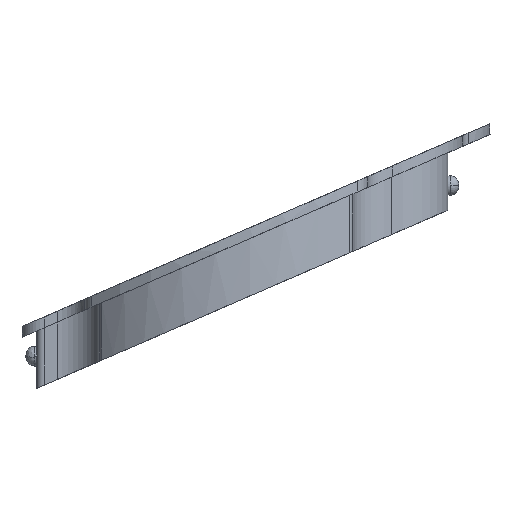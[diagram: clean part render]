
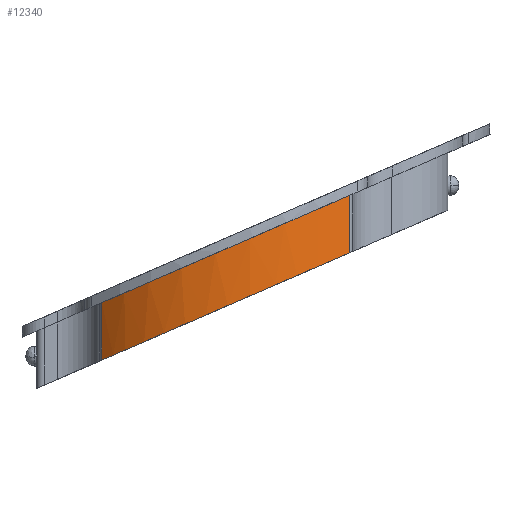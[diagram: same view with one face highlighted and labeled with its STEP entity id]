
A CAD part, left-side view. The second image highlights one B-rep face of the part: STEP entity #12340.
In plain terms, the highlighted free-form (B-spline) face has degree [3, 1] with [8, 2] control points.
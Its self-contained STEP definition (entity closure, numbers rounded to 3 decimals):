
#457 = CARTESIAN_POINT ( 'NONE',  ( -96.407, -24.777, 15.584 ) ) ;
#759 = CARTESIAN_POINT ( 'NONE',  ( -97.055, -22.881, 19.981 ) ) ;
#829 = CARTESIAN_POINT ( 'NONE',  ( -97.152, -22.907, 14.774 ) ) ;
#926 = CARTESIAN_POINT ( 'NONE',  ( -92.985, -4.045, 11.818 ) ) ;
#1133 = LINE ( 'NONE', #22820, #16467 ) ;
#1227 = CARTESIAN_POINT ( 'NONE',  ( -96.788, -10.076, 14.432 ) ) ;
#1334 = EDGE_CURVE ( 'NONE', #18814, #20877, #4240, .T. ) ;
#1797 = VERTEX_POINT ( 'NONE', #21419 ) ;
#1898 = CARTESIAN_POINT ( 'NONE',  ( -97.555, -10.985, 14.826 ) ) ;
#1904 = B_SPLINE_SURFACE_WITH_KNOTS ( 'NONE', 3, 1, ( 
 ( #16702, #22269 ),
 ( #457, #7700 ),
 ( #2365, #22148 ),
 ( #16812, #5924 ),
 ( #19894, #10892 ),
 ( #18130, #1898 ),
 ( #7349, #21796 ),
 ( #5572, #926 ) ),
 .UNSPECIFIED., .F., .F., .F.,
 ( 4, 2, 2, 4 ),
 ( 2, 2 ),
 ( 0., 0.25, 0.5, 1. ),
 ( 0., 1. ),
 .UNSPECIFIED. ) ;
#2365 = CARTESIAN_POINT ( 'NONE',  ( -97.152, -22.907, 14.774 ) ) ;
#2427 = CARTESIAN_POINT ( 'NONE',  ( -96.321, -24.76, 20.795 ) ) ;
#2520 = CARTESIAN_POINT ( 'NONE',  ( -95.336, -26.542, 16.349 ) ) ;
#2629 = CARTESIAN_POINT ( 'NONE',  ( -97.555, -10.985, 9.608 ) ) ;
#2739 = CARTESIAN_POINT ( 'NONE',  ( -92.985, -4.045, 6.6 ) ) ;
#3021 = CARTESIAN_POINT ( 'NONE',  ( -92.985, -4.045, 11.818 ) ) ;
#3092 = CARTESIAN_POINT ( 'NONE',  ( -95.336, -26.542, 16.349 ) ) ;
#4240 = B_SPLINE_CURVE_WITH_KNOTS ( 'NONE', 3,
 ( #3092, #20622, #829, #18966, #11622, #2629, #8070, #2739 ),
 .UNSPECIFIED., .F., .F.,
 ( 4, 2, 2, 4 ),
 ( 0., 0.25, 0.5, 1. ),
 .UNSPECIFIED. ) ;
#4436 = CARTESIAN_POINT ( 'NONE',  ( -97.355, -21.915, 19.562 ) ) ;
#5027 = CARTESIAN_POINT ( 'NONE',  ( -97.671, -12.972, 15.687 ) ) ;
#5267 = CARTESIAN_POINT ( 'NONE',  ( -93.704, -4.811, 12.15 ) ) ;
#5572 = CARTESIAN_POINT ( 'NONE',  ( -92.985, -4.045, 6.6 ) ) ;
#5924 = CARTESIAN_POINT ( 'NONE',  ( -98.036, -18.973, 18.287 ) ) ;
#6907 = EDGE_CURVE ( 'NONE', #18814, #19062, #7855, .T. ) ;
#7349 = CARTESIAN_POINT ( 'NONE',  ( -95.859, -7.107, 7.927 ) ) ;
#7700 = CARTESIAN_POINT ( 'NONE',  ( -96.407, -24.777, 20.802 ) ) ;
#7855 = LINE ( 'NONE', #2520, #19015 ) ;
#7993 = CARTESIAN_POINT ( 'NONE',  ( -97.486, -21.423, 19.349 ) ) ;
#8070 = CARTESIAN_POINT ( 'NONE',  ( -95.859, -7.107, 7.927 ) ) ;
#9269 = EDGE_LOOP ( 'NONE', ( #14115, #13742, #13996, #11526 ) ) ;
#9652 = CARTESIAN_POINT ( 'NONE',  ( -96.886, -23.356, 20.187 ) ) ;
#9970 = DIRECTION ( 'NONE',  ( 0., 0., 1. ) ) ;
#10350 = CARTESIAN_POINT ( 'NONE',  ( -95.476, -7.322, 13.238 ) ) ;
#10892 = CARTESIAN_POINT ( 'NONE',  ( -98.155, -16.963, 17.416 ) ) ;
#11214 = EDGE_CURVE ( 'NONE', #20877, #1797, #1133, .T. ) ;
#11248 = FACE_OUTER_BOUND ( 'NONE', #9269, .T. ) ;
#11526 = ORIENTED_EDGE ( 'NONE', *, *, #6907, .T. ) ;
#11622 = CARTESIAN_POINT ( 'NONE',  ( -98.155, -16.963, 12.198 ) ) ;
#11665 = CARTESIAN_POINT ( 'NONE',  ( -97.956, -18.959, 18.281 ) ) ;
#11734 = CARTESIAN_POINT ( 'NONE',  ( -92.985, -4.045, 6.6 ) ) ;
#12340 = ADVANCED_FACE ( 'NONE', ( #11248 ), #1904, .F. ) ;
#12358 = CARTESIAN_POINT ( 'NONE',  ( -95.968, -8.21, 13.623 ) ) ;
#13211 = CARTESIAN_POINT ( 'NONE',  ( -95.867, -25.666, 21.187 ) ) ;
#13742 = ORIENTED_EDGE ( 'NONE', *, *, #11214, .F. ) ;
#13976 = CARTESIAN_POINT ( 'NONE',  ( -95.336, -26.542, 16.349 ) ) ;
#13996 = ORIENTED_EDGE ( 'NONE', *, *, #1334, .F. ) ;
#14115 = ORIENTED_EDGE ( 'NONE', *, *, #19163, .T. ) ;
#14141 = CARTESIAN_POINT ( 'NONE',  ( -98.075, -16.971, 17.419 ) ) ;
#15213 = CARTESIAN_POINT ( 'NONE',  ( -97.817, -19.948, 18.71 ) ) ;
#15689 = CARTESIAN_POINT ( 'NONE',  ( -96.596, -9.601, 14.226 ) ) ;
#15925 = CARTESIAN_POINT ( 'NONE',  ( -98.056, -15.971, 16.986 ) ) ;
#16467 = VECTOR ( 'NONE', #19141, 1000. ) ;
#16702 = CARTESIAN_POINT ( 'NONE',  ( -95.336, -26.542, 16.349 ) ) ;
#16812 = CARTESIAN_POINT ( 'NONE',  ( -98.036, -18.973, 13.069 ) ) ;
#18130 = CARTESIAN_POINT ( 'NONE',  ( -97.555, -10.985, 9.608 ) ) ;
#18814 = VERTEX_POINT ( 'NONE', #13976 ) ;
#18966 = CARTESIAN_POINT ( 'NONE',  ( -98.036, -18.973, 13.069 ) ) ;
#19005 = CARTESIAN_POINT ( 'NONE',  ( -95.336, -26.542, 21.567 ) ) ;
#19015 = VECTOR ( 'NONE', #9970, 1000. ) ;
#19062 = VERTEX_POINT ( 'NONE', #19005 ) ;
#19141 = DIRECTION ( 'NONE',  ( 0., 0., 1. ) ) ;
#19163 = EDGE_CURVE ( 'NONE', #19062, #1797, #22109, .T. ) ;
#19354 = CARTESIAN_POINT ( 'NONE',  ( -97.28, -11.513, 15.055 ) ) ;
#19894 = CARTESIAN_POINT ( 'NONE',  ( -98.155, -16.963, 12.198 ) ) ;
#20622 = CARTESIAN_POINT ( 'NONE',  ( -96.407, -24.777, 15.584 ) ) ;
#20877 = VERTEX_POINT ( 'NONE', #11734 ) ;
#21143 = CARTESIAN_POINT ( 'NONE',  ( -97.129, -11.031, 14.846 ) ) ;
#21419 = CARTESIAN_POINT ( 'NONE',  ( -92.985, -4.045, 11.818 ) ) ;
#21796 = CARTESIAN_POINT ( 'NONE',  ( -95.859, -7.107, 13.145 ) ) ;
#22109 = B_SPLINE_CURVE_WITH_KNOTS ( 'NONE', 3,
 ( #22216, #13211, #2427, #9652, #759, #4436, #7993, #15213, #11665, #14141, #15925, #22801, #5027, #19354, #21143, #1227, #15689, #12358, #10350, #23039, #5267, #3021 ),
 .UNSPECIFIED., .F., .F.,
 ( 4, 2, 2, 2, 2, 2, 2, 2, 2, 2, 4 ),
 ( 0.025, 0.029, 0.03, 0.032, 0.035, 0.038, 0.042, 0.043, 0.045, 0.048, 0.051 ),
 .UNSPECIFIED. ) ;
#22148 = CARTESIAN_POINT ( 'NONE',  ( -97.152, -22.907, 19.992 ) ) ;
#22216 = CARTESIAN_POINT ( 'NONE',  ( -95.336, -26.542, 21.567 ) ) ;
#22269 = CARTESIAN_POINT ( 'NONE',  ( -95.336, -26.542, 21.567 ) ) ;
#22801 = CARTESIAN_POINT ( 'NONE',  ( -97.854, -13.962, 16.116 ) ) ;
#22820 = CARTESIAN_POINT ( 'NONE',  ( -92.985, -4.045, 6.6 ) ) ;
#23039 = CARTESIAN_POINT ( 'NONE',  ( -94.344, -5.623, 12.502 ) ) ;
